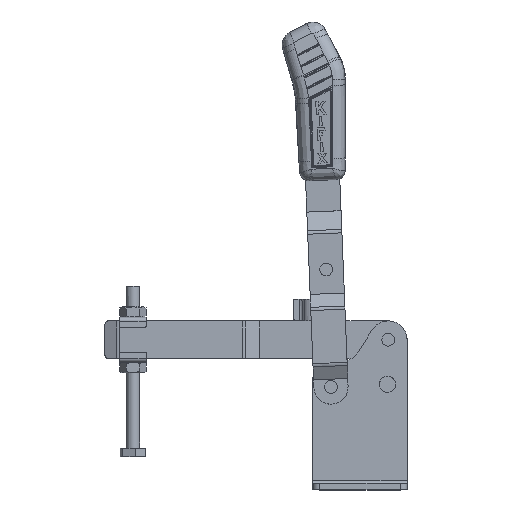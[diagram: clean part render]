
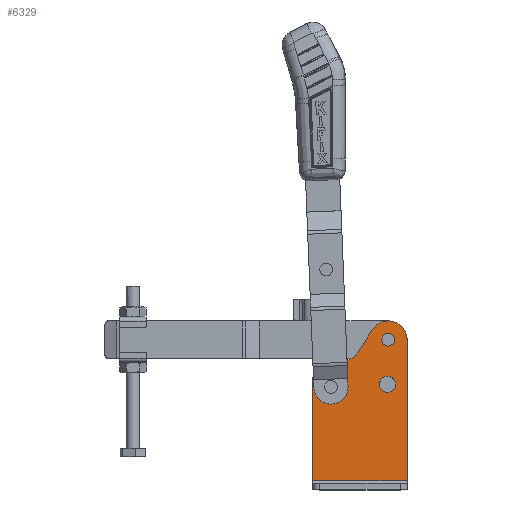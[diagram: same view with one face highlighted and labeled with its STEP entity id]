
A CAD part, top view. The second image highlights one B-rep face of the part: STEP entity #6329.
In plain terms, the highlighted planar face has unit normal (0, 0, 1).
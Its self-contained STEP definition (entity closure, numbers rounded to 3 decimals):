
#32 = EDGE_CURVE ( 'NONE', #13085, #3738, #22441, .T. ) ;
#291 = LINE ( 'NONE', #4754, #16699 ) ;
#375 = DIRECTION ( 'NONE',  ( 1., 0., 0. ) ) ;
#464 = LINE ( 'NONE', #24269, #16867 ) ;
#647 = DIRECTION ( 'NONE',  ( 1., 0., 0. ) ) ;
#699 = ORIENTED_EDGE ( 'NONE', *, *, #7507, .F. ) ;
#741 = ORIENTED_EDGE ( 'NONE', *, *, #18158, .T. ) ;
#803 = CARTESIAN_POINT ( 'NONE',  ( 25.005, 137.308, 0. ) ) ;
#846 = CARTESIAN_POINT ( 'NONE',  ( 21.005, 137.308, 0. ) ) ;
#1201 = LINE ( 'NONE', #11395, #23366 ) ;
#1624 = CARTESIAN_POINT ( 'NONE',  ( 30., 5., 0. ) ) ;
#1804 = DIRECTION ( 'NONE',  ( 1., 0., 0. ) ) ;
#2133 = AXIS2_PLACEMENT_3D ( 'NONE', #5999, #20979, #8152 ) ;
#2135 = ORIENTED_EDGE ( 'NONE', *, *, #26210, .F. ) ;
#2683 = VERTEX_POINT ( 'NONE', #9727 ) ;
#2802 = AXIS2_PLACEMENT_3D ( 'NONE', #1624, #16625, #3795 ) ;
#2980 = CARTESIAN_POINT ( 'NONE',  ( -25.5, 102.3, 0. ) ) ;
#3211 = CIRCLE ( 'NONE', #11999, 6.05 ) ;
#3272 = ORIENTED_EDGE ( 'NONE', *, *, #9879, .F. ) ;
#3648 = FACE_BOUND ( 'NONE', #17879, .T. ) ;
#3738 = VERTEX_POINT ( 'NONE', #803 ) ;
#3795 = DIRECTION ( 'NONE',  ( 1., 0., 0. ) ) ;
#3829 = VERTEX_POINT ( 'NONE', #7531 ) ;
#4184 = DIRECTION ( 'NONE',  ( 0., -1., 0. ) ) ;
#4473 = CARTESIAN_POINT ( 'NONE',  ( -25., 107.654, 0. ) ) ;
#4754 = CARTESIAN_POINT ( 'NONE',  ( -9.948, 121.887, 0. ) ) ;
#5155 = DIRECTION ( 'NONE',  ( 1., 0., 0. ) ) ;
#5779 = CARTESIAN_POINT ( 'NONE',  ( 17.005, 137.308, 0. ) ) ;
#5999 = CARTESIAN_POINT ( 'NONE',  ( -21.5, 102.3, 0. ) ) ;
#6329 = ADVANCED_FACE ( 'NONE', ( #15768, #20100, #25824, #3648 ), #25188, .T. ) ;
#6351 = VERTEX_POINT ( 'NONE', #18773 ) ;
#6625 = DIRECTION ( 'NONE',  ( 1., 0., 0. ) ) ;
#6694 = VERTEX_POINT ( 'NONE', #21347 ) ;
#6904 = DIRECTION ( 'NONE',  ( -0.968, -0.251, 0. ) ) ;
#7108 = EDGE_CURVE ( 'NONE', #3829, #12107, #19385, .T. ) ;
#7187 = EDGE_CURVE ( 'NONE', #12820, #3829, #291, .T. ) ;
#7188 = DIRECTION ( 'NONE',  ( 0., 0., 1. ) ) ;
#7507 = EDGE_CURVE ( 'NONE', #27275, #6694, #22079, .T. ) ;
#7531 = CARTESIAN_POINT ( 'NONE',  ( -27.51, 117.334, 0. ) ) ;
#8152 = DIRECTION ( 'NONE',  ( 1., 0., 0. ) ) ;
#8194 = VERTEX_POINT ( 'NONE', #2980 ) ;
#8248 = CARTESIAN_POINT ( 'NONE',  ( 14.45, 104.3, 0. ) ) ;
#8496 = CARTESIAN_POINT ( 'NONE',  ( -35., 107.654, 0. ) ) ;
#8711 = EDGE_CURVE ( 'NONE', #6694, #27275, #3211, .T. ) ;
#9227 = DIRECTION ( 'NONE',  ( 0., 1., 0. ) ) ;
#9269 = DIRECTION ( 'NONE',  ( -0.529, -0.849, 0. ) ) ;
#9405 = ORIENTED_EDGE ( 'NONE', *, *, #20966, .T. ) ;
#9727 = CARTESIAN_POINT ( 'NONE',  ( -17.5, 102.3, 0. ) ) ;
#9879 = EDGE_CURVE ( 'NONE', #8194, #2683, #18588, .T. ) ;
#10187 = CIRCLE ( 'NONE', #18496, 13.995 ) ;
#10804 = AXIS2_PLACEMENT_3D ( 'NONE', #846, #11537, #5155 ) ;
#10879 = CARTESIAN_POINT ( 'NONE',  ( -21.5, 102.3, 0. ) ) ;
#11232 = EDGE_CURVE ( 'NONE', #22760, #12820, #21257, .T. ) ;
#11395 = CARTESIAN_POINT ( 'NONE',  ( 35., 5., 0. ) ) ;
#11537 = DIRECTION ( 'NONE',  ( 0., 0., 1. ) ) ;
#11803 = AXIS2_PLACEMENT_3D ( 'NONE', #4473, #19443, #6625 ) ;
#11999 = AXIS2_PLACEMENT_3D ( 'NONE', #20009, #7188, #22195 ) ;
#12107 = VERTEX_POINT ( 'NONE', #21287 ) ;
#12503 = CARTESIAN_POINT ( 'NONE',  ( 20.5, 104.3, 0. ) ) ;
#12820 = VERTEX_POINT ( 'NONE', #13097 ) ;
#12955 = AXIS2_PLACEMENT_3D ( 'NONE', #26346, #13485, #647 ) ;
#13022 = DIRECTION ( 'NONE',  ( 1., 0., 0. ) ) ;
#13085 = VERTEX_POINT ( 'NONE', #5779 ) ;
#13097 = CARTESIAN_POINT ( 'NONE',  ( -9.948, 121.887, 0. ) ) ;
#13175 = EDGE_LOOP ( 'NONE', ( #13337, #741, #14386, #9405, #25011, #15888, #24498, #27583 ) ) ;
#13205 = DIRECTION ( 'NONE',  ( 0., 0., 1. ) ) ;
#13337 = ORIENTED_EDGE ( 'NONE', *, *, #21925, .F. ) ;
#13485 = DIRECTION ( 'NONE',  ( 0., 0., -1. ) ) ;
#13919 = CIRCLE ( 'NONE', #19898, 4. ) ;
#14382 = VECTOR ( 'NONE', #4184, 1000. ) ;
#14386 = ORIENTED_EDGE ( 'NONE', *, *, #27468, .T. ) ;
#14428 = CARTESIAN_POINT ( 'NONE',  ( 30., 32.62, 0. ) ) ;
#14636 = DIRECTION ( 'NONE',  ( 1., 0., 0. ) ) ;
#14648 = DIRECTION ( 'NONE',  ( 0., 0., 1. ) ) ;
#15069 = LINE ( 'NONE', #8496, #14382 ) ;
#15086 = EDGE_CURVE ( 'NONE', #2683, #8194, #15445, .T. ) ;
#15445 = CIRCLE ( 'NONE', #26901, 4. ) ;
#15532 = EDGE_CURVE ( 'NONE', #12107, #22793, #15069, .T. ) ;
#15728 = VECTOR ( 'NONE', #25142, 1000. ) ;
#15768 = FACE_OUTER_BOUND ( 'NONE', #13175, .T. ) ;
#15888 = ORIENTED_EDGE ( 'NONE', *, *, #7187, .T. ) ;
#16038 = VERTEX_POINT ( 'NONE', #27772 ) ;
#16362 = LINE ( 'NONE', #14428, #15728 ) ;
#16625 = DIRECTION ( 'NONE',  ( 0., 0., 1. ) ) ;
#16699 = VECTOR ( 'NONE', #6904, 1000. ) ;
#16867 = VECTOR ( 'NONE', #9269, 1000. ) ;
#17344 = ORIENTED_EDGE ( 'NONE', *, *, #8711, .F. ) ;
#17879 = EDGE_LOOP ( 'NONE', ( #2135, #20680 ) ) ;
#18158 = EDGE_CURVE ( 'NONE', #16038, #24882, #1201, .T. ) ;
#18406 = AXIS2_PLACEMENT_3D ( 'NONE', #12503, #27501, #14636 ) ;
#18496 = AXIS2_PLACEMENT_3D ( 'NONE', #26071, #13205, #375 ) ;
#18588 = CIRCLE ( 'NONE', #2133, 4. ) ;
#18773 = CARTESIAN_POINT ( 'NONE',  ( 9.126, 144.706, 0. ) ) ;
#19385 = CIRCLE ( 'NONE', #11803, 10. ) ;
#19443 = DIRECTION ( 'NONE',  ( 0., 0., 1. ) ) ;
#19719 = CARTESIAN_POINT ( 'NONE',  ( 35., 137.308, 0. ) ) ;
#19898 = AXIS2_PLACEMENT_3D ( 'NONE', #27519, #14648, #1804 ) ;
#20009 = CARTESIAN_POINT ( 'NONE',  ( 20.5, 104.3, 0. ) ) ;
#20100 = FACE_BOUND ( 'NONE', #20518, .T. ) ;
#20518 = EDGE_LOOP ( 'NONE', ( #17344, #699 ) ) ;
#20680 = ORIENTED_EDGE ( 'NONE', *, *, #32, .F. ) ;
#20966 = EDGE_CURVE ( 'NONE', #6351, #22760, #464, .T. ) ;
#20979 = DIRECTION ( 'NONE',  ( 0., 0., 1. ) ) ;
#21257 = CIRCLE ( 'NONE', #12955, 15. ) ;
#21287 = CARTESIAN_POINT ( 'NONE',  ( -35., 107.654, 0. ) ) ;
#21347 = CARTESIAN_POINT ( 'NONE',  ( 26.55, 104.3, 0. ) ) ;
#21925 = EDGE_CURVE ( 'NONE', #16038, #22793, #16362, .T. ) ;
#22079 = CIRCLE ( 'NONE', #18406, 6.05 ) ;
#22195 = DIRECTION ( 'NONE',  ( 1., 0., 0. ) ) ;
#22441 = CIRCLE ( 'NONE', #10804, 4. ) ;
#22760 = VERTEX_POINT ( 'NONE', #24618 ) ;
#22793 = VERTEX_POINT ( 'NONE', #26873 ) ;
#23366 = VECTOR ( 'NONE', #9227, 1000. ) ;
#24269 = CARTESIAN_POINT ( 'NONE',  ( 9.126, 144.706, 0. ) ) ;
#24498 = ORIENTED_EDGE ( 'NONE', *, *, #7108, .T. ) ;
#24618 = CARTESIAN_POINT ( 'NONE',  ( -0.979, 128.479, 0. ) ) ;
#24882 = VERTEX_POINT ( 'NONE', #19719 ) ;
#25011 = ORIENTED_EDGE ( 'NONE', *, *, #11232, .T. ) ;
#25142 = DIRECTION ( 'NONE',  ( -1., 0., 0. ) ) ;
#25188 = PLANE ( 'NONE',  #2802 ) ;
#25824 = FACE_BOUND ( 'NONE', #26652, .T. ) ;
#25892 = DIRECTION ( 'NONE',  ( 0., 0., 1. ) ) ;
#26071 = CARTESIAN_POINT ( 'NONE',  ( 21.005, 137.308, 0. ) ) ;
#26210 = EDGE_CURVE ( 'NONE', #3738, #13085, #13919, .T. ) ;
#26346 = CARTESIAN_POINT ( 'NONE',  ( -13.712, 136.407, 0. ) ) ;
#26652 = EDGE_LOOP ( 'NONE', ( #27618, #3272 ) ) ;
#26873 = CARTESIAN_POINT ( 'NONE',  ( -35., 32.62, 0. ) ) ;
#26901 = AXIS2_PLACEMENT_3D ( 'NONE', #10879, #25892, #13022 ) ;
#27275 = VERTEX_POINT ( 'NONE', #8248 ) ;
#27468 = EDGE_CURVE ( 'NONE', #24882, #6351, #10187, .T. ) ;
#27501 = DIRECTION ( 'NONE',  ( 0., 0., 1. ) ) ;
#27519 = CARTESIAN_POINT ( 'NONE',  ( 21.005, 137.308, 0. ) ) ;
#27583 = ORIENTED_EDGE ( 'NONE', *, *, #15532, .T. ) ;
#27618 = ORIENTED_EDGE ( 'NONE', *, *, #15086, .F. ) ;
#27772 = CARTESIAN_POINT ( 'NONE',  ( 35., 32.62, 0. ) ) ;
